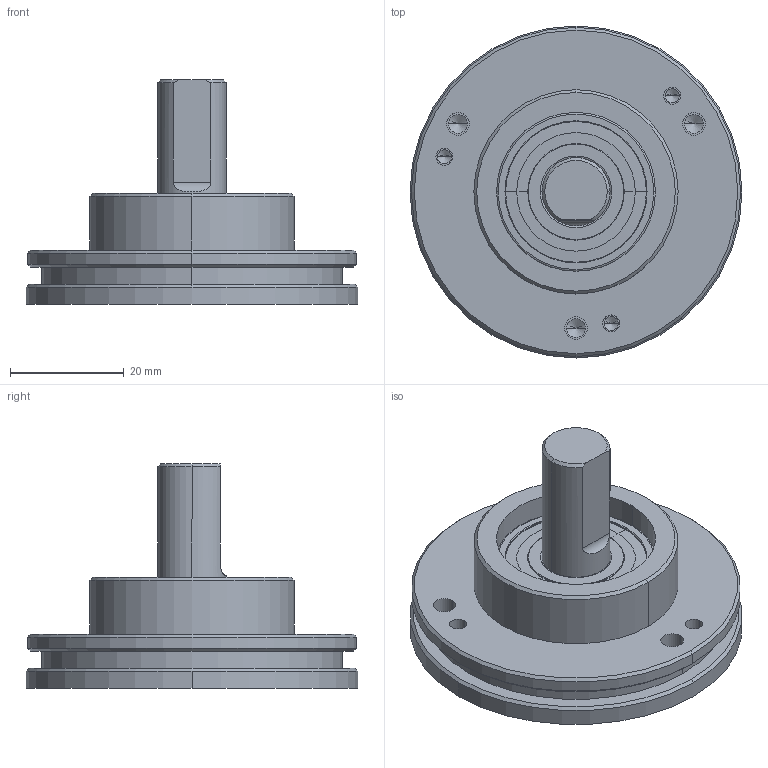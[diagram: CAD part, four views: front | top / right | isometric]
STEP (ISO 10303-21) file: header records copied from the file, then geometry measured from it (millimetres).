
FILE_DESCRIPTION (( 'STEP AP203' ), '1' );
FILE_NAME ('MCD-L120-Q5B-N.STEP', '2013-04-11T10:57:17', ( '' ), ( '' ), 'SwSTEP 2.0', 'SolidWorks 2006104', '' );
FILE_SCHEMA (( 'CONFIG_CONTROL_DESIGN' ));
Length unit declared in the file: millimetre
Products named in the file (1): MCD-L120-Q5B-N
Bounding box: 58.5 x 58.5 x 39.5 mm (x, y, z)
Volume: 30135.1 mm3; surface area: 15839.7 mm2
Topology: 4 solids, 5 shells, 160 faces, 335 edges, 192 vertices
Faces by surface type: cylinder 67, torus 36, cone 33, plane 24
Entity records: 4321 total; most frequent: DIRECTION 860, CARTESIAN_POINT 713, ORIENTED_EDGE 646, AXIS2_PLACEMENT_3D 379, EDGE_CURVE 323, CIRCLE 218, VERTEX_POINT 192, EDGE_LOOP 187
